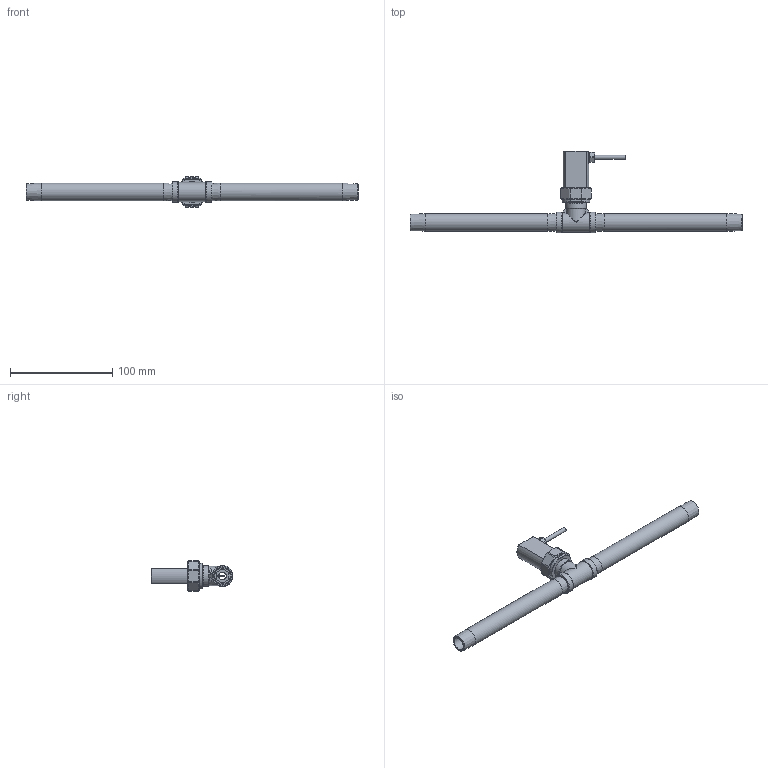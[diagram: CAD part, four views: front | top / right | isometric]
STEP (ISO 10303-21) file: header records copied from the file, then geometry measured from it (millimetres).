
FILE_DESCRIPTION(/* description */ (''),/* implementation_level */ '2;1');
FILE_NAME(/* name */ 'Mini-IL 30.212 mit Messstreckenrohr.stp',/* time_stamp */ '2025-07-15T14:14:26+02:00',/* author */ (''),/* organization */ (''),/* preprocessor_version */ 'ST-DEVELOPER v19.4',/* originating_system */ 'SIEMENS PLM Software NX2306.8501',/* authorisation */ '');
FILE_SCHEMA (('AP203_CONFIGURATION_CONTROLLED_3D_DESIGN_OF_MECHANICAL_PARTS_AND_ASSEMBLIES_MIM_LF { 1 0 10303 403 2 1 2}'));
Length unit declared in the file: millimetre
Products named in the file (1): 01_objects
Bounding box: 325 x 80 x 30 mm (x, y, z)
Surface area: 41404.6 mm2 (no closed solid volume)
Topology: 0 solids, 1 shells, 227 faces, 630 edges, 402 vertices
Faces by surface type: plane 105, cylinder 53, cone 40, bspline 15, torus 10, sphere 4
Full cylindrical faces by diameter (mm): 4 x1, 8 x1, 12.6 x2, 14.5 x4, 14.6 x1, 15 x3, 17.2 x2, 20.4 x3, 27.3 x1, 27.4 x1
Entity records: 11014 total; most frequent: CARTESIAN_POINT 6010, ORIENTED_EDGE 1016, DIRECTION 964, EDGE_CURVE 508, AXIS2_PLACEMENT_3D 371, VERTEX_POINT 349, EDGE_LOOP 287, LINE 222
